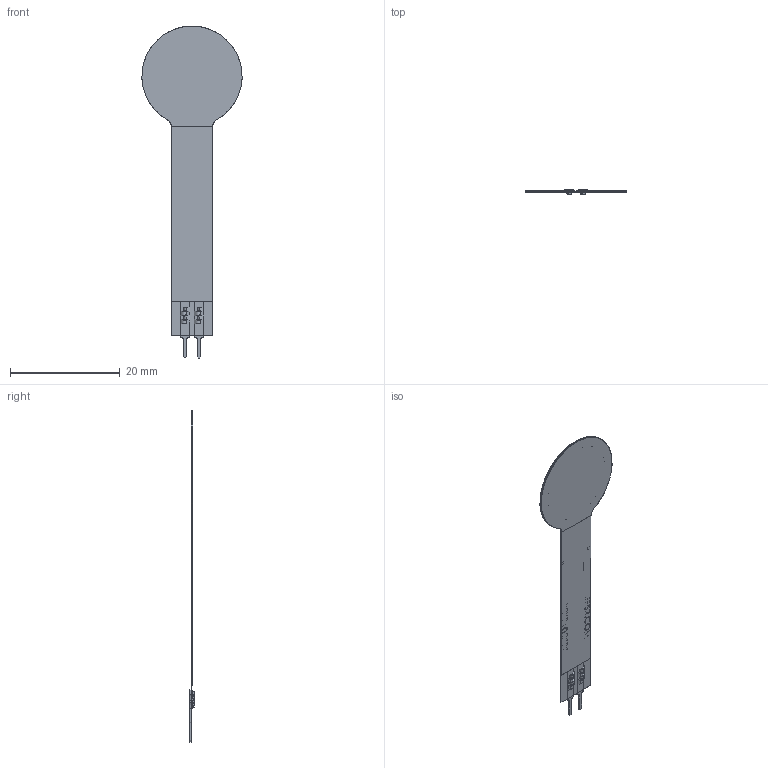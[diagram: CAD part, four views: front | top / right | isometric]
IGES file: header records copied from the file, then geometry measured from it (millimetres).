
Start section: SolidWorks IGES file using analytic representation for surfaces
Global section: file name: C:\Documents and Settings\jleonard\Desktop\30-81794-FSR 402.IGS; native system: SolidWorks 2008; preprocessor: SolidWorks 2008; author: jleonard; date: 110909.154344; units: millimetre
Bounding box: 18.27 x 0.85 x 60.52 mm (x, y, z)
Surface area: 3922.9 mm2 (no closed solid volume)
Topology: 0 solids, 0 shells, 550 faces, 3976 edges, 3976 vertices
Faces by surface type: bspline 448, revolution 102
